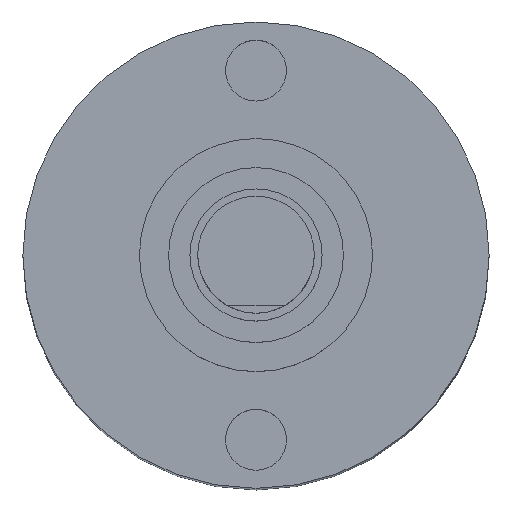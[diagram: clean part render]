
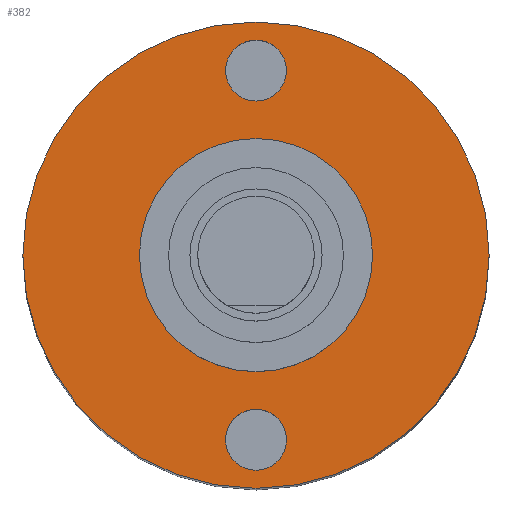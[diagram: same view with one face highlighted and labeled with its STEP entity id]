
A CAD part, top view. The second image highlights one B-rep face of the part: STEP entity #382.
In plain terms, the highlighted planar face has unit normal (0, 0, 1).
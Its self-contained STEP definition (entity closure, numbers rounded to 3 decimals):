
#73=CARTESIAN_POINT('',(0.784,4.75,0.));
#74=VERTEX_POINT('',#73);
#75=CARTESIAN_POINT('',(0.0,4.75,0.));
#76=DIRECTION('',(0.0,0.0,-1.0));
#77=DIRECTION('',(1.0,0.0,0.0));
#78=AXIS2_PLACEMENT_3D('',#75,#76,#77);
#79=CIRCLE('',#78,0.784);
#80=EDGE_CURVE('',#74,#74,#79,.T.);
#110=CARTESIAN_POINT('',(0.784,-4.75,0.));
#111=VERTEX_POINT('',#110);
#112=CARTESIAN_POINT('',(0.0,-4.75,0.));
#113=DIRECTION('',(0.0,0.0,-1.0));
#114=DIRECTION('',(1.0,0.0,0.0));
#115=AXIS2_PLACEMENT_3D('',#112,#113,#114);
#116=CIRCLE('',#115,0.784);
#117=EDGE_CURVE('',#111,#111,#116,.T.);
#342=CARTESIAN_POINT('',(0.0,3.0,0.0));
#343=VERTEX_POINT('',#342);
#344=CARTESIAN_POINT('',(0.0,0.0,0.0));
#345=DIRECTION('',(0.0,0.0,-1.0));
#346=DIRECTION('',(0.0,1.0,0.0));
#347=AXIS2_PLACEMENT_3D('',#344,#345,#346);
#348=CIRCLE('',#347,3.0);
#349=EDGE_CURVE('',#343,#343,#348,.T.);
#357=CARTESIAN_POINT('',(0.0,4.5,0.));
#358=DIRECTION('',(0.0,0.0,1.0));
#359=DIRECTION('',(1.0,0.0,0.0));
#360=AXIS2_PLACEMENT_3D('',#357,#358,#359);
#361=PLANE('',#360);
#362=CARTESIAN_POINT('',(0.0,6.0,0.));
#363=VERTEX_POINT('',#362);
#364=CARTESIAN_POINT('',(0.0,0.0,0.));
#365=DIRECTION('',(0.0,0.0,-1.0));
#366=DIRECTION('',(0.0,1.0,0.0));
#367=AXIS2_PLACEMENT_3D('',#364,#365,#366);
#368=CIRCLE('',#367,6.0);
#369=EDGE_CURVE('',#363,#363,#368,.T.);
#370=ORIENTED_EDGE('',*,*,#369,.F.);
#371=EDGE_LOOP('',(#370));
#372=FACE_OUTER_BOUND('',#371,.T.);
#373=ORIENTED_EDGE('',*,*,#80,.T.);
#374=EDGE_LOOP('',(#373));
#375=FACE_BOUND('',#374,.T.);
#376=ORIENTED_EDGE('',*,*,#117,.T.);
#377=EDGE_LOOP('',(#376));
#378=FACE_BOUND('',#377,.T.);
#379=ORIENTED_EDGE('',*,*,#349,.T.);
#380=EDGE_LOOP('',(#379));
#381=FACE_BOUND('',#380,.T.);
#382=ADVANCED_FACE('',(#372,#375,#378,#381),#361,.T.);
